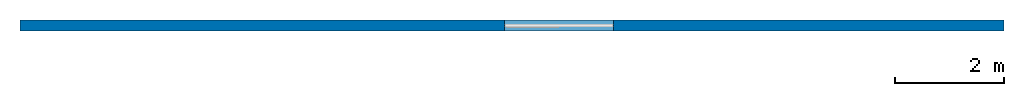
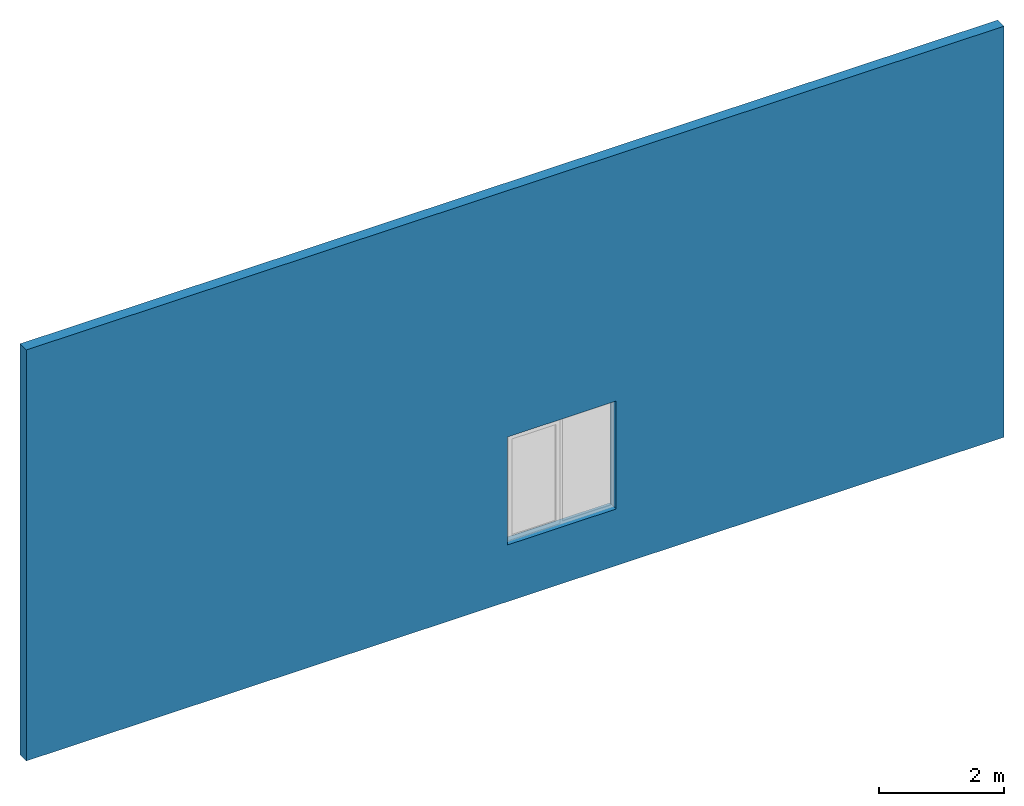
# One storey, part 1 of 2: 1 wall, 1 opening.
"""IFC2X3 building model written with IfcOpenShell, lengths in millimetres."""

from ifc_helpers import new_model, entity, si_unit, converted_unit, derived_unit, direction, frame, frame_2d, origin, place, context, subcontext, project, spatial, rectangle, extrude, material, layer, layer_set, layer_usage, type_object, element, save


model = new_model("IFC2X3")

# Units and contexts
model_context = context("Model", 3, precision=0.01, world=origin(), true_north=direction((6.12303176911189e-17, 1.0)))
body_context = subcontext(model_context, "Body", "Model", "MODEL_VIEW")
ifc_project = project(units=[si_unit("LENGTHUNIT", "METRE", prefix="MILLI"), si_unit("AREAUNIT", "SQUARE_METRE"), si_unit("VOLUMEUNIT", "CUBIC_METRE"), converted_unit("PLANEANGLEUNIT", "DEGREE", entity("IfcRatioMeasure", 0.0174532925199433), si_unit("PLANEANGLEUNIT", "RADIAN"), dimensions=[0, 0, 0, 0, 0, 0, 0]), si_unit("MASSUNIT", "GRAM", prefix="KILO"), derived_unit("MASSDENSITYUNIT", [(si_unit("MASSUNIT", "GRAM", prefix="KILO"), 1), (si_unit("LENGTHUNIT", "METRE"), -3)]), si_unit("TIMEUNIT", "SECOND"), si_unit("FREQUENCYUNIT", "HERTZ"), si_unit("THERMODYNAMICTEMPERATUREUNIT", "DEGREE_CELSIUS"), derived_unit("THERMALTRANSMITTANCEUNIT", [(si_unit("MASSUNIT", "GRAM", prefix="KILO"), 1), (si_unit("THERMODYNAMICTEMPERATUREUNIT", "KELVIN"), -1), (si_unit("TIMEUNIT", "SECOND"), -3)]), derived_unit("VOLUMETRICFLOWRATEUNIT", [(si_unit("LENGTHUNIT", "METRE"), 3), (si_unit("TIMEUNIT", "SECOND"), -1)]), si_unit("ELECTRICCURRENTUNIT", "AMPERE"), si_unit("ELECTRICVOLTAGEUNIT", "VOLT"), si_unit("POWERUNIT", "WATT"), si_unit("FORCEUNIT", "NEWTON", prefix="KILO"), si_unit("ILLUMINANCEUNIT", "LUX"), si_unit("LUMINOUSFLUXUNIT", "LUMEN"), si_unit("LUMINOUSINTENSITYUNIT", "CANDELA"), derived_unit("USERDEFINED", [(si_unit("MASSUNIT", "GRAM", prefix="KILO"), -1), (si_unit("LENGTHUNIT", "METRE"), -2), (si_unit("TIMEUNIT", "SECOND"), 3), (si_unit("LUMINOUSFLUXUNIT", "LUMEN"), 1)]), derived_unit("LINEARVELOCITYUNIT", [(si_unit("LENGTHUNIT", "METRE"), 1), (si_unit("TIMEUNIT", "SECOND"), -1)]), si_unit("PRESSUREUNIT", "PASCAL"), derived_unit("USERDEFINED", [(si_unit("LENGTHUNIT", "METRE"), -2), (si_unit("MASSUNIT", "GRAM", prefix="KILO"), 1), (si_unit("TIMEUNIT", "SECOND"), -2)])], contexts=[model_context])

# Site, building, storey
site_placement = place(None, origin())
site = spatial("IfcSite", under=ifc_project, at=site_placement, Name="Default", CompositionType="ELEMENT")
building_placement = place(site_placement, origin())
building = spatial("IfcBuilding", under=site, at=building_placement, CompositionType="ELEMENT")
storey_placement = place(building_placement, origin())
storey = spatial("IfcBuildingStorey", under=building, at=storey_placement, Name="Nivel 1", CompositionType="ELEMENT", Elevation=0.0)

# Wall, opening
ifc_material = material(Name="Muro por defecto")
ifc_layer = layer(ifc_material, 200.0)
ifc_layer_set = layer_set([ifc_layer], Name="Muro básico:Genérico - 200 mm")
ifc_layer_usage = layer_usage(ifc_layer_set, "AXIS2", "NEGATIVE", 100.0)
wall_type = type_object("IfcWallType", Name="Muro básico:Genérico - 200 mm", PredefinedType="STANDARD", material=ifc_layer_set)
wall_placement = place(storey_placement, frame((-10823.7335756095, 2881.09928072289, 0.0)))
wall = element("IfcWallStandardCase", 1, at=wall_placement, inside=storey, type_object=wall_type, material=ifc_layer_usage, Name="Muro básico:Genérico - 200 mm", ObjectType="Muro básico:Genérico - 200 mm:398", context=body_context, shape_type="SweptSolid", body=[
    extrude(rectangle(XDim=18000.0, YDim=200.0, at=frame_2d((9000.0, -6.3948846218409e-14), x_axis=(-1.0, 0.0))), origin(), (0.0, 0.0, 1.0), 8000.0),
])
opening_placement = place(wall_placement, origin())
element("IfcOpeningElement", 2, at=opening_placement, cuts=wall, Name="Muro básico:Genérico - 200 mm", ObjectType="Opening", context=body_context, shape_type="SweptSolid", body=[
    extrude(rectangle(XDim=2099.99999999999, YDim=2000.0, at=frame_2d((0.0, 2.27373675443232e-13), x_axis=(0.0, 1.0))), frame((9860.0, -1424.0, 2153.55877216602), z_axis=(0.0, 1.0, 0.0), x_axis=(-1.0, 0.0, 0.0)), (0.0, 0.0, 1.0), 3048.0),
])

save(model, "model.ifc")
